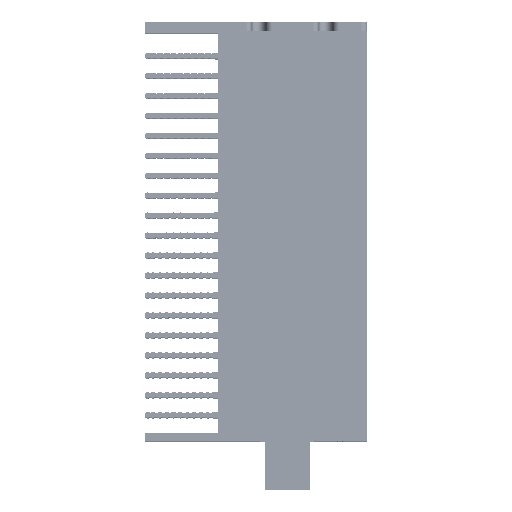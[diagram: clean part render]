
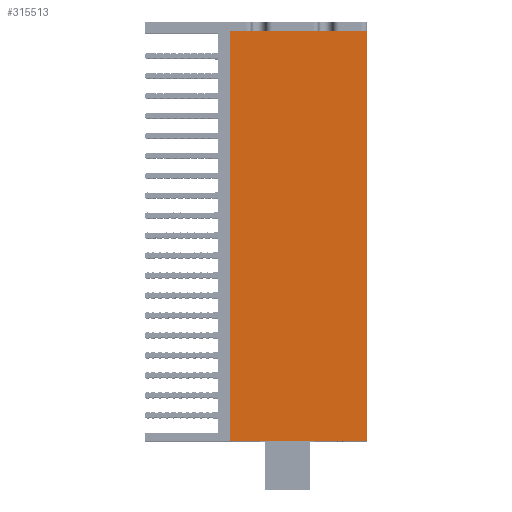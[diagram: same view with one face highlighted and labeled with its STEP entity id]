
A CAD part, top view. The second image highlights one B-rep face of the part: STEP entity #315513.
In plain terms, the highlighted planar face has unit normal (0, 0, 1).
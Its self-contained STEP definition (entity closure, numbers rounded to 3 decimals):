
#14217=DIRECTION('',(0.,1.,0.));
#14218=VECTOR('',#14217,143.72);
#14219=CARTESIAN_POINT('',(-10.497,-72.95,192.9));
#14220=LINE('',#14219,#14218);
#14237=DIRECTION('',(-1.,0.,0.));
#14238=VECTOR('',#14237,48.);
#14239=CARTESIAN_POINT('',(37.5,70.77,192.9));
#14240=LINE('',#14239,#14238);
#14285=DIRECTION('',(0.,-1.,0.));
#14286=VECTOR('',#14285,143.97);
#14287=CARTESIAN_POINT('',(37.5,70.77,192.9));
#14288=LINE('',#14287,#14286);
#77143=DIRECTION('',(0.027,-1.,0.));
#77144=VECTOR('',#77143,0.25);
#77145=CARTESIAN_POINT('',(-10.497,-72.95,192.9));
#77146=LINE('',#77145,#77144);
#83291=DIRECTION('',(-1.,0.,0.));
#83292=VECTOR('',#83291,47.99);
#83293=CARTESIAN_POINT('',(37.5,-73.2,192.9));
#83294=LINE('',#83293,#83292);
#238633=CARTESIAN_POINT('',(37.5,70.77,192.9));
#238634=CARTESIAN_POINT('',(37.5,-73.2,192.9));
#238635=VERTEX_POINT('',#238633);
#238636=VERTEX_POINT('',#238634);
#238641=CARTESIAN_POINT('',(-10.49,-73.2,192.9));
#238643=VERTEX_POINT('',#238641);
#238646=CARTESIAN_POINT('',(-10.497,-72.95,192.9));
#238648=VERTEX_POINT('',#238646);
#238649=CARTESIAN_POINT('',(-10.5,70.77,192.9));
#238650=VERTEX_POINT('',#238649);
#315497=CARTESIAN_POINT('',(37.5,70.77,192.9));
#315498=DIRECTION('',(0.,0.,1.));
#315499=DIRECTION('',(0.,-1.,0.));
#315500=AXIS2_PLACEMENT_3D('',#315497,#315498,#315499);
#315501=PLANE('',#315500);
#315502=ORIENTED_EDGE('',*,*,#315481,.T.);
#315504=ORIENTED_EDGE('',*,*,#315503,.F.);
#315506=ORIENTED_EDGE('',*,*,#315505,.T.);
#315508=ORIENTED_EDGE('',*,*,#315507,.T.);
#315510=ORIENTED_EDGE('',*,*,#315509,.F.);
#315511=EDGE_LOOP('',(#315502,#315504,#315506,#315508,#315510));
#315512=FACE_OUTER_BOUND('',#315511,.F.);
#315513=ADVANCED_FACE('',(#315512),#315501,.T.);
#315481=EDGE_CURVE('',#238648,#238650,#14220,.T.);
#315503=EDGE_CURVE('',#238635,#238650,#14240,.T.);
#315505=EDGE_CURVE('',#238635,#238636,#14288,.T.);
#315507=EDGE_CURVE('',#238636,#238643,#83294,.T.);
#315509=EDGE_CURVE('',#238648,#238643,#77146,.T.);
